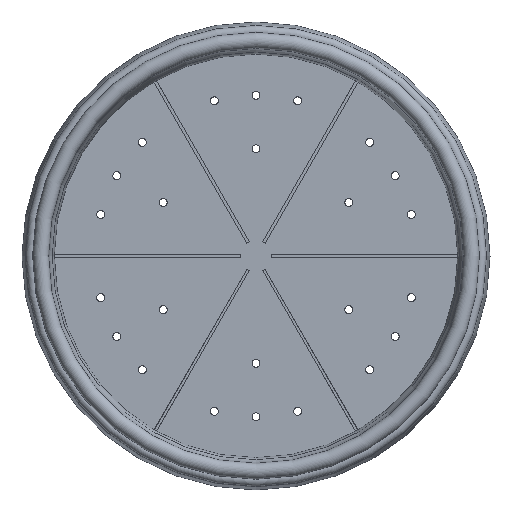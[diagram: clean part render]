
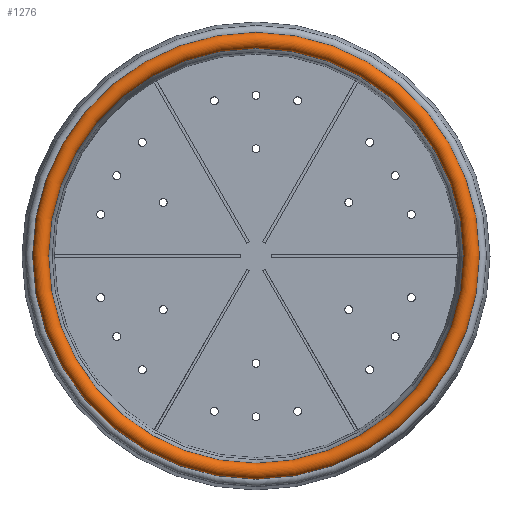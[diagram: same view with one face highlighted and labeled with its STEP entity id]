
A CAD part, top view. The second image highlights one B-rep face of the part: STEP entity #1276.
In plain terms, the highlighted toroidal (fillet/blend) face has major radius 135.68 mm and minor radius 5 mm.
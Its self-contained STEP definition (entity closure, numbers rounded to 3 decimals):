
#18=TOROIDAL_SURFACE('',#1441,135.68,5.);
#154=FACE_OUTER_BOUND('',#245,.T.);
#245=EDGE_LOOP('',(#1097,#1098,#1099,#1100));
#522=CIRCLE('',#1440,139.51);
#523=CIRCLE('',#1442,130.68);
#524=CIRCLE('',#1443,5.);
#643=VERTEX_POINT('',#2201);
#644=VERTEX_POINT('',#2205);
#810=EDGE_CURVE('',#643,#643,#522,.T.);
#812=EDGE_CURVE('',#644,#644,#523,.T.);
#813=EDGE_CURVE('',#644,#643,#524,.T.);
#1097=ORIENTED_EDGE('',*,*,#812,.F.);
#1098=ORIENTED_EDGE('',*,*,#813,.T.);
#1099=ORIENTED_EDGE('',*,*,#810,.T.);
#1100=ORIENTED_EDGE('',*,*,#813,.F.);
#1276=ADVANCED_FACE('',(#154),#18,.T.);
#1440=AXIS2_PLACEMENT_3D('',#2202,#1821,#1822);
#1441=AXIS2_PLACEMENT_3D('',#2204,#1824,#1825);
#1442=AXIS2_PLACEMENT_3D('',#2206,#1826,#1827);
#1443=AXIS2_PLACEMENT_3D('',#2207,#1828,#1829);
#1821=DIRECTION('center_axis',(0.,0.,1.));
#1822=DIRECTION('ref_axis',(1.,0.,0.));
#1824=DIRECTION('center_axis',(0.,0.,1.));
#1825=DIRECTION('ref_axis',(1.,0.,0.));
#1826=DIRECTION('center_axis',(0.,0.,1.));
#1827=DIRECTION('ref_axis',(1.,0.,0.));
#1828=DIRECTION('center_axis',(0.,-1.,0.));
#1829=DIRECTION('ref_axis',(-1.,0.,0.));
#2201=CARTESIAN_POINT('',(-139.51,0.,91.786));
#2202=CARTESIAN_POINT('Origin',(0.,0.,91.786));
#2204=CARTESIAN_POINT('Origin',(0.,0.,95.));
#2205=CARTESIAN_POINT('',(-130.68,0.,95.));
#2206=CARTESIAN_POINT('Origin',(0.,0.,95.));
#2207=CARTESIAN_POINT('Origin',(-135.68,0.,
95.));
